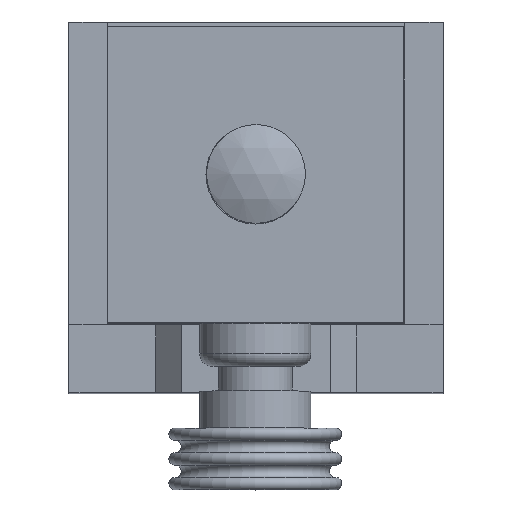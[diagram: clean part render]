
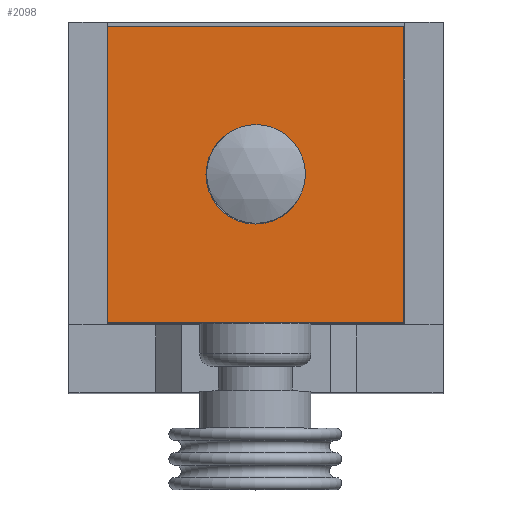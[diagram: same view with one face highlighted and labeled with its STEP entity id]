
A CAD part, top view. The second image highlights one B-rep face of the part: STEP entity #2098.
In plain terms, the highlighted planar face has unit normal (0, 0, 1).
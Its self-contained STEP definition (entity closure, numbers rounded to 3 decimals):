
#1947=CARTESIAN_POINT('',(-12.,-9.45,67.0));
#1948=VERTEX_POINT('',#1947);
#1955=CARTESIAN_POINT('',(-12.,14.55,67.0));
#1956=VERTEX_POINT('',#1955);
#1957=CARTESIAN_POINT('',(-12.,14.55,67.));
#1958=DIRECTION('',(0.0,-1.0,0.0));
#1959=VECTOR('',#1958,24.);
#1960=LINE('',#1957,#1959);
#1961=EDGE_CURVE('',#1956,#1948,#1960,.T.);
#1985=CARTESIAN_POINT('',(12.,-9.45,67.0));
#1986=VERTEX_POINT('',#1985);
#1993=CARTESIAN_POINT('',(-12.,-9.45,67.));
#1994=DIRECTION('',(1.0,0.0,0.0));
#1995=VECTOR('',#1994,24.);
#1996=LINE('',#1993,#1995);
#1997=EDGE_CURVE('',#1948,#1986,#1996,.T.);
#2016=CARTESIAN_POINT('',(12.,14.55,67.0));
#2017=VERTEX_POINT('',#2016);
#2024=CARTESIAN_POINT('',(12.,-9.45,67.));
#2025=DIRECTION('',(0.0,1.0,0.0));
#2026=VECTOR('',#2025,24.0);
#2027=LINE('',#2024,#2026);
#2028=EDGE_CURVE('',#1986,#2017,#2027,.T.);
#2046=CARTESIAN_POINT('',(12.,14.55,67.));
#2047=DIRECTION('',(-1.0,0.0,0.0));
#2048=VECTOR('',#2047,24.);
#2049=LINE('',#2046,#2048);
#2050=EDGE_CURVE('',#2017,#1956,#2049,.T.);
#2061=CARTESIAN_POINT('',(-4.0,2.55,67.));
#2062=VERTEX_POINT('',#2061);
#2063=CARTESIAN_POINT('',(0.0,2.55,67.));
#2064=DIRECTION('',(0.0,0.0,-1.0));
#2065=DIRECTION('',(1.0,0.0,0.0));
#2066=AXIS2_PLACEMENT_3D('',#2063,#2064,#2065);
#2067=CIRCLE('',#2066,4.0);
#2068=EDGE_CURVE('',#2062,#2062,#2067,.T.);
#2084=CARTESIAN_POINT('',(0.0,0.0,67.));
#2085=DIRECTION('',(0.0,0.0,-1.0));
#2086=DIRECTION('',(-1.0,0.0,0.0));
#2087=AXIS2_PLACEMENT_3D('',#2084,#2085,#2086);
#2088=PLANE('',#2087);
#2089=ORIENTED_EDGE('',*,*,#1961,.T.);
#2090=ORIENTED_EDGE('',*,*,#1997,.T.);
#2091=ORIENTED_EDGE('',*,*,#2028,.T.);
#2092=ORIENTED_EDGE('',*,*,#2050,.T.);
#2093=EDGE_LOOP('',(#2089,#2090,#2091,#2092));
#2094=FACE_OUTER_BOUND('',#2093,.T.);
#2095=ORIENTED_EDGE('',*,*,#2068,.T.);
#2096=EDGE_LOOP('',(#2095));
#2097=FACE_BOUND('',#2096,.T.);
#2098=ADVANCED_FACE('',(#2094,#2097),#2088,.F.);
